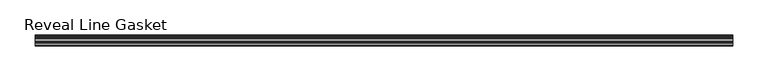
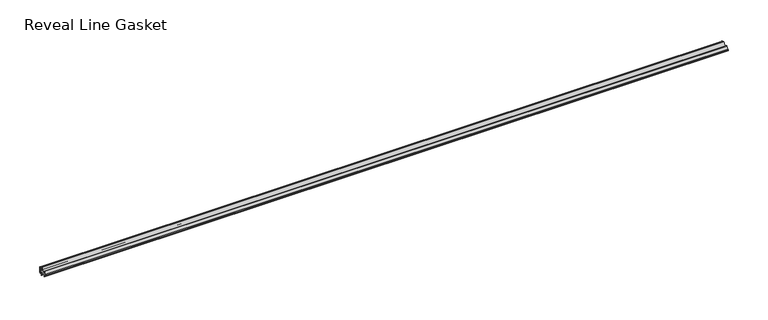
"""IFC4 building model written with IfcOpenShell, lengths in millimetres: proxy geometry, Accessories-Teknion-FHGR-AI_Healthcare-Reveal_Line_Gasket(Horizontal)-R2022 : Reveal Line Gasket."""

from ifc_helpers import new_model, si_unit, point, frame, frame_2d, origin, place, context, project, spatial, polyline, circle_curve, trimmed, segment, composite_curve, outline, extrude, source, transform, mapped, element, save


def reveal_line_gasket_f194aed9(model_context):
    return source(origin(), model_context, "Body", "SweptSolid", [
        extrude(outline(composite_curve([segment(polyline([(7.6326998, 1603.2), (7.6326998, 1597.2), (7.4091917, 1596.2445073), (6.8813059, 1595.3115316)]), True, "CONTINUOUS"), segment(trimmed(circle_curve(frame_2d((6.5243141, 1595.5135207)), 0.4101739), [point((6.8813059, 1595.3115316))], [point((6.1246704, 1595.6058653))], False, "CARTESIAN"), True, "CONTINUOUS"), segment(polyline([(6.1246704, 1595.6058653), (6.3626997, 1597.3020914), (6.3626997, 1599.3345473)]), True, "CONTINUOUS"), segment(trimmed(circle_curve(frame_2d((5.6959605, 1598.9180742)), 0.786124), [point((6.3626997, 1599.3345473))], [point((5.0926996, 1599.422125))], True, "CARTESIAN"), True, "CONTINUOUS"), segment(polyline([(5.0926996, 1599.422125), (0.7492996, 1599.422125), (3.7293824, 1594.2604705)]), True, "CONTINUOUS"), segment(trimmed(circle_curve(frame_2d((3.3132479, 1594.1950239)), 0.4212495), [point((3.7293824, 1594.2604705))], [point((3.0485022, 1593.8673642))], False, "CARTESIAN"), True, "CONTINUOUS"), segment(polyline([(3.0485022, 1593.8673642), (-0.5742594, 1599.422125), (-4.8262978, 1599.422125), (-3.1660374, 1596.5464703)]), True, "CONTINUOUS"), segment(trimmed(circle_curve(frame_2d((-3.5978728, 1596.4881145)), 0.4357605), [point((-3.1660374, 1596.5464703))], [point((-3.864328, 1596.1433119))], False, "CARTESIAN"), True, "CONTINUOUS"), segment(polyline([(-3.864328, 1596.1433119), (-6.1944059, 1599.422125), (-7.6326998, 1599.422125), (-7.6326998, 1600.977875), (-6.1944059, 1600.977875), (-3.864328, 1604.2566881)]), True, "CONTINUOUS"), segment(trimmed(circle_curve(frame_2d((-3.5978728, 1603.9118855)), 0.4357605), [point((-3.864328, 1604.2566881))], [point((-3.1660374, 1603.8535297))], False, "CARTESIAN"), True, "CONTINUOUS"), segment(polyline([(-3.1660374, 1603.8535297), (-4.8262978, 1600.977875), (-0.5742594, 1600.977875), (3.0485022, 1606.5326358)]), True, "CONTINUOUS"), segment(trimmed(circle_curve(frame_2d((3.3132479, 1606.2049761)), 0.4212495), [point((3.0485022, 1606.5326358))], [point((3.7293824, 1606.1395295))], False, "CARTESIAN"), True, "CONTINUOUS"), segment(polyline([(3.7293824, 1606.1395295), (0.7492996, 1600.977875), (5.0926996, 1600.977875)]), True, "CONTINUOUS"), segment(trimmed(circle_curve(frame_2d((5.6959605, 1601.4819258)), 0.786124), [point((5.0926996, 1600.977875))], [point((6.3626997, 1601.0654527))], True, "CARTESIAN"), True, "CONTINUOUS"), segment(polyline([(6.3626997, 1601.0654527), (6.3626997, 1603.0979086), (6.1246704, 1604.7941347)]), True, "CONTINUOUS"), segment(trimmed(circle_curve(frame_2d((6.5243141, 1604.8864793)), 0.4101739), [point((6.1246704, 1604.7941347))], [point((6.8813059, 1605.0884684))], False, "CARTESIAN"), True, "CONTINUOUS"), segment(polyline([(6.8813059, 1605.0884684), (7.4091917, 1604.1554927), (7.6326998, 1603.2)]), True, "CONTINUOUS")], self_intersect=False)), frame((-493.4204, 0.0, 0.0), z_axis=(1.0, 0.0, 0.0), x_axis=(0.0, 1.0, 0.0)), (0.0, 0.0, 1.0), 986.8408),
    ])


if __name__ == "__main__":
    model = new_model("IFC4")
    model_context = context("Model", 3, world=origin())
    ifc_project = project(units=[si_unit("LENGTHUNIT", "METRE", prefix="MILLI")], contexts=[model_context])
    site = spatial("IfcSite", under=ifc_project)
    building = spatial("IfcBuilding", under=site)
    placement = place(None, origin())
    reveal_line_gasket_shape = reveal_line_gasket_f194aed9(model_context)
    element("IfcBuildingElementProxy", 1, Name="Accessories-Teknion-FHGR-AI_Healthcare-Reveal_Line_Gasket(Horizontal)-R2022 : Reveal Line Gasket", ObjectType="Accessories-Teknion-FHGR-AI_Healthcare-Reveal_Line_Gasket(Horizontal)-R2022 : Reveal Line Gasket", at=placement, inside=building, context=model_context, shape_type="MappedRepresentation", body=[
        mapped(reveal_line_gasket_shape, transform((0.0, 0.0, 0.0), x_axis=(1.0, 0.0, 0.0), y_axis=(0.0, 1.0, 0.0), z_axis=(0.0, 0.0, 1.0))),
    ])
    save(model, "model.ifc")
